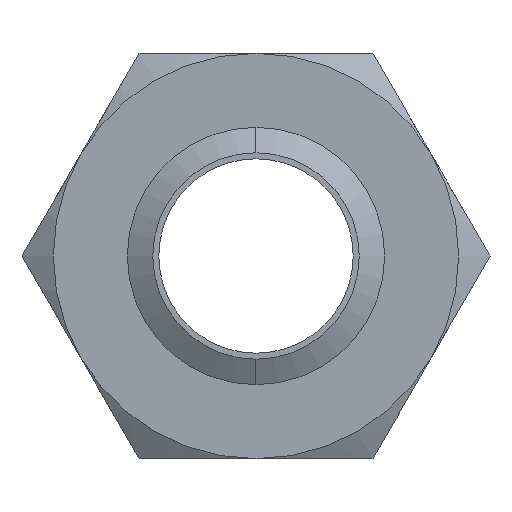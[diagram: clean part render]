
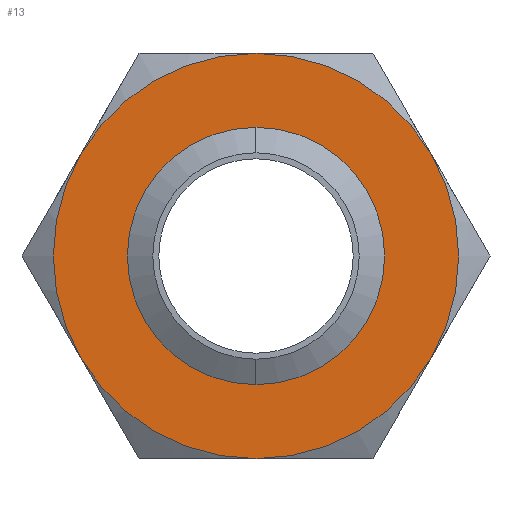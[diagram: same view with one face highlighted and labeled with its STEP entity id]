
A CAD part, front view. The second image highlights one B-rep face of the part: STEP entity #13.
In plain terms, the highlighted planar face has unit normal (0, -1, 0).
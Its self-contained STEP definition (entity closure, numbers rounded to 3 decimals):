
#5 = EDGE_LOOP ( 'NONE', ( #2041, #2038, #2035, #10, #2027, #2023 ) ) ;
#8 = VERTEX_POINT ( 'NONE', #313 ) ;
#9 = EDGE_CURVE ( 'NONE', #2028, #8, #312, .T. ) ;
#10 = ORIENTED_EDGE ( 'NONE', *, *, #9, .F. ) ;
#13 = ADVANCED_FACE ( 'NONE', ( #303, #302 ), #298, .F. ) ;
#298 = PLANE ( 'NONE',  #301 ) ;
#299 = DIRECTION ( 'NONE',  ( 0., 1., 0. ) ) ;
#300 = CARTESIAN_POINT ( 'NONE',  ( 14.434, 0., -25. ) ) ;
#301 = AXIS2_PLACEMENT_3D ( 'NONE', #300, #299, #358 ) ;
#302 = FACE_BOUND ( 'NONE', #2026, .T. ) ;
#303 = FACE_OUTER_BOUND ( 'NONE', #5, .T. ) ;
#308 = DIRECTION ( 'NONE',  ( 0., 0., 1. ) ) ;
#309 = DIRECTION ( 'NONE',  ( 0., 1., 0. ) ) ;
#310 = CARTESIAN_POINT ( 'NONE',  ( 0., 0., 0. ) ) ;
#311 = AXIS2_PLACEMENT_3D ( 'NONE', #310, #309, #308 ) ;
#312 = CIRCLE ( 'NONE', #311, 25. ) ;
#313 = CARTESIAN_POINT ( 'NONE',  ( -21.651, 0., -12.5 ) ) ;
#358 = DIRECTION ( 'NONE',  ( 0., 0., 1. ) ) ;
#1345 = CARTESIAN_POINT ( 'NONE',  ( 0., 0., -12.731 ) ) ;
#1346 = DIRECTION ( 'NONE',  ( 0., 0., -1. ) ) ;
#1347 = DIRECTION ( 'NONE',  ( 0., -1., 0. ) ) ;
#1348 = CARTESIAN_POINT ( 'NONE',  ( 0., 0., 0. ) ) ;
#1349 = AXIS2_PLACEMENT_3D ( 'NONE', #1348, #1347, #1346 ) ;
#1350 = CIRCLE ( 'NONE', #1349, 12.731 ) ;
#1351 = CARTESIAN_POINT ( 'NONE',  ( 0., 0., 12.731 ) ) ;
#1538 = CARTESIAN_POINT ( 'NONE',  ( -21.651, 0., 12.5 ) ) ;
#1539 = CARTESIAN_POINT ( 'NONE',  ( 0., 0., 25. ) ) ;
#1541 = DIRECTION ( 'NONE',  ( 0., 0., 1. ) ) ;
#1542 = DIRECTION ( 'NONE',  ( 0., 1., 0. ) ) ;
#1543 = CARTESIAN_POINT ( 'NONE',  ( 0., 0., 0. ) ) ;
#1544 = AXIS2_PLACEMENT_3D ( 'NONE', #1543, #1542, #1541 ) ;
#1545 = CIRCLE ( 'NONE', #1544, 25. ) ;
#1546 = CARTESIAN_POINT ( 'NONE',  ( 0., 0., -25. ) ) ;
#1547 = DIRECTION ( 'NONE',  ( 0., 0., 1. ) ) ;
#1548 = DIRECTION ( 'NONE',  ( 0., 1., 0. ) ) ;
#1549 = CARTESIAN_POINT ( 'NONE',  ( 0., 0., 0. ) ) ;
#1550 = AXIS2_PLACEMENT_3D ( 'NONE', #1549, #1548, #1547 ) ;
#1551 = CIRCLE ( 'NONE', #1550, 25. ) ;
#1552 = CARTESIAN_POINT ( 'NONE',  ( 21.651, 0., -12.5 ) ) ;
#1557 = DIRECTION ( 'NONE',  ( 0., 0., -1. ) ) ;
#1558 = DIRECTION ( 'NONE',  ( 0., -1., 0. ) ) ;
#1559 = CARTESIAN_POINT ( 'NONE',  ( 0., 0., 0. ) ) ;
#1560 = AXIS2_PLACEMENT_3D ( 'NONE', #1559, #1558, #1557 ) ;
#1564 = CIRCLE ( 'NONE', #1560, 12.731 ) ;
#1577 = DIRECTION ( 'NONE',  ( 0., 0., 1. ) ) ;
#1578 = DIRECTION ( 'NONE',  ( 0., 1., 0. ) ) ;
#1579 = CARTESIAN_POINT ( 'NONE',  ( 0., 0., 0. ) ) ;
#1580 = AXIS2_PLACEMENT_3D ( 'NONE', #1579, #1578, #1577 ) ;
#1581 = CIRCLE ( 'NONE', #1580, 25. ) ;
#1582 = CARTESIAN_POINT ( 'NONE',  ( 21.651, 0., 12.5 ) ) ;
#1583 = DIRECTION ( 'NONE',  ( 0., 0., 1. ) ) ;
#1584 = DIRECTION ( 'NONE',  ( 0., 1., 0. ) ) ;
#1585 = CARTESIAN_POINT ( 'NONE',  ( 0., 0., 0. ) ) ;
#1586 = AXIS2_PLACEMENT_3D ( 'NONE', #1585, #1584, #1583 ) ;
#1587 = CIRCLE ( 'NONE', #1586, 25. ) ;
#1588 = DIRECTION ( 'NONE',  ( 0., 0., 1. ) ) ;
#1589 = DIRECTION ( 'NONE',  ( 0., 1., 0. ) ) ;
#1590 = CARTESIAN_POINT ( 'NONE',  ( 0., 0., 0. ) ) ;
#1591 = AXIS2_PLACEMENT_3D ( 'NONE', #1590, #1589, #1588 ) ;
#1592 = CIRCLE ( 'NONE', #1591, 25. ) ;
#1902 = VERTEX_POINT ( 'NONE', #1351 ) ;
#1903 = EDGE_CURVE ( 'NONE', #1905, #1902, #1350, .T. ) ;
#1905 = VERTEX_POINT ( 'NONE', #1345 ) ;
#2018 = ORIENTED_EDGE ( 'NONE', *, *, #1903, .F. ) ;
#2019 = ORIENTED_EDGE ( 'NONE', *, *, #2020, .F. ) ;
#2020 = EDGE_CURVE ( 'NONE', #1902, #1905, #1564, .T. ) ;
#2022 = VERTEX_POINT ( 'NONE', #1552 ) ;
#2023 = ORIENTED_EDGE ( 'NONE', *, *, #2025, .F. ) ;
#2024 = EDGE_CURVE ( 'NONE', #2022, #2028, #1551, .T. ) ;
#2025 = EDGE_CURVE ( 'NONE', #2037, #2022, #1545, .T. ) ;
#2026 = EDGE_LOOP ( 'NONE', ( #2018, #2019 ) ) ;
#2027 = ORIENTED_EDGE ( 'NONE', *, *, #2024, .F. ) ;
#2028 = VERTEX_POINT ( 'NONE', #1546 ) ;
#2032 = VERTEX_POINT ( 'NONE', #1539 ) ;
#2033 = VERTEX_POINT ( 'NONE', #1538 ) ;
#2034 = EDGE_CURVE ( 'NONE', #8, #2033, #1592, .T. ) ;
#2035 = ORIENTED_EDGE ( 'NONE', *, *, #2034, .F. ) ;
#2036 = EDGE_CURVE ( 'NONE', #2033, #2032, #1587, .T. ) ;
#2037 = VERTEX_POINT ( 'NONE', #1582 ) ;
#2038 = ORIENTED_EDGE ( 'NONE', *, *, #2036, .F. ) ;
#2040 = EDGE_CURVE ( 'NONE', #2032, #2037, #1581, .T. ) ;
#2041 = ORIENTED_EDGE ( 'NONE', *, *, #2040, .F. ) ;
